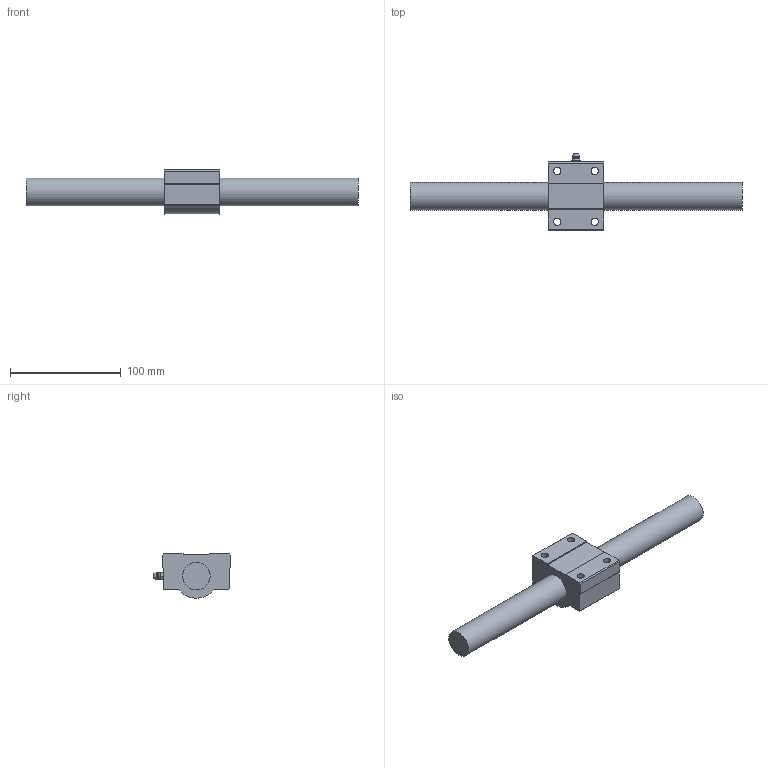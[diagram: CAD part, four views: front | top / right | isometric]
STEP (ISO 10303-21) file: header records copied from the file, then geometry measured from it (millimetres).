
FILE_DESCRIPTION((''),'2;1');
FILE_NAME('D:\製品 (図面)\カタログ用3D\ネジ関連\STEP形式\TMH\TMH25.stp','2010-06-02T15:17:43',('Tsuchiya'),(''),'Autodesk Inventor 10','Autodesk Inventor 10','');
FILE_SCHEMA(('AUTOMOTIVE_DESIGN { 1 0 10303 214 1 1 1 1 }'));
Length unit declared in the file: millimetre
Products named in the file (3): TMH25; TMH251; TMH252
Assembly tree (2 placements, depth 2):
  TMH25
    TMH251
    TMH252
Bounding box: 300 x 69.8 x 39.93 mm (x, y, z)
Volume: 223902 mm3; surface area: 43794.1 mm2
Topology: 2 solids, 2 shells, 61 faces, 144 edges, 91 vertices
Faces by surface type: plane 31, cone 13, bspline 8, cylinder 7, sphere 2
Full cylindrical faces by diameter (mm): 6.6 x2, 6.647 x2, 25 x2
Entity records: 1814 total; most frequent: CARTESIAN_POINT 470, DIRECTION 258, ORIENTED_EDGE 248, EDGE_CURVE 124, AXIS2_PLACEMENT_3D 100, EDGE_LOOP 92, VERTEX_POINT 88, FACE_OUTER_BOUND 61
